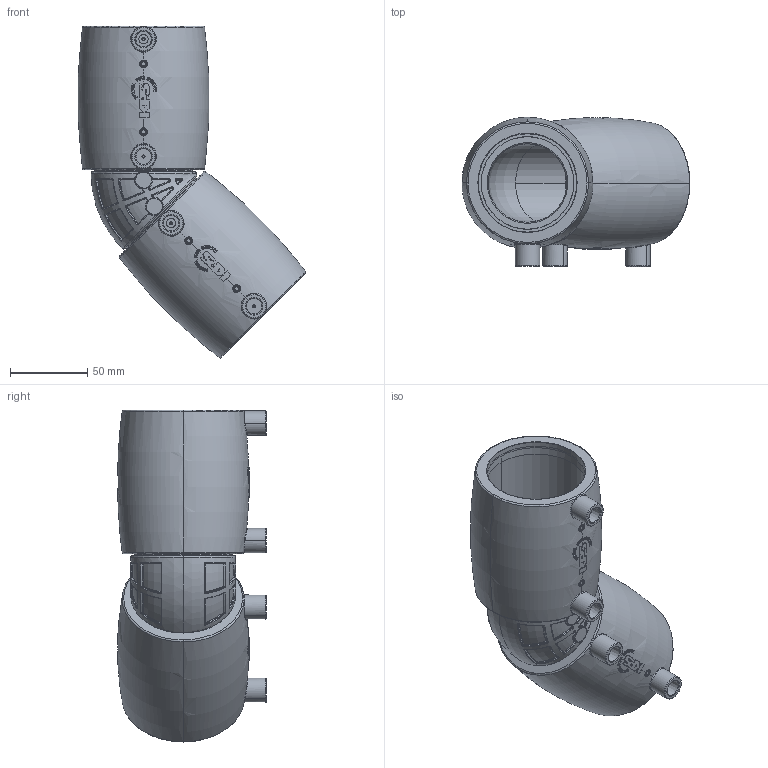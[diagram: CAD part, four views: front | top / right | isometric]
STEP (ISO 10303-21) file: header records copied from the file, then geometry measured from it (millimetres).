
FILE_DESCRIPTION (( 'STEP AP214' ), '1' );
FILE_NAME ('KP_24-63E.STEP', '2019-03-22T13:31:31', ( '' ), ( '' ), 'SwSTEP 2.0', 'SolidWorks 2018', '' );
FILE_SCHEMA (( 'AUTOMOTIVE_DESIGN' ));
Length unit declared in the file: millimetre
Products named in the file (1): KP_24-63E
Bounding box: 147.55 x 96.34 x 214.95 mm (x, y, z)
Volume: 564748.4 mm3; surface area: 148046.6 mm2
Topology: 1 solids, 9 shells, 3393 faces, 9292 edges, 6011 vertices
Faces by surface type: plane 2526, bspline 334, cylinder 210, torus 193, cone 72, sphere 58
Entity records: 125455 total; most frequent: CARTESIAN_POINT 36243, ORIENTED_EDGE 18452, DIRECTION 15017, EDGE_CURVE 9226, LINE 6949, VECTOR 6949, VERTEX_POINT 5991, AXIS2_PLACEMENT_3D 4034
